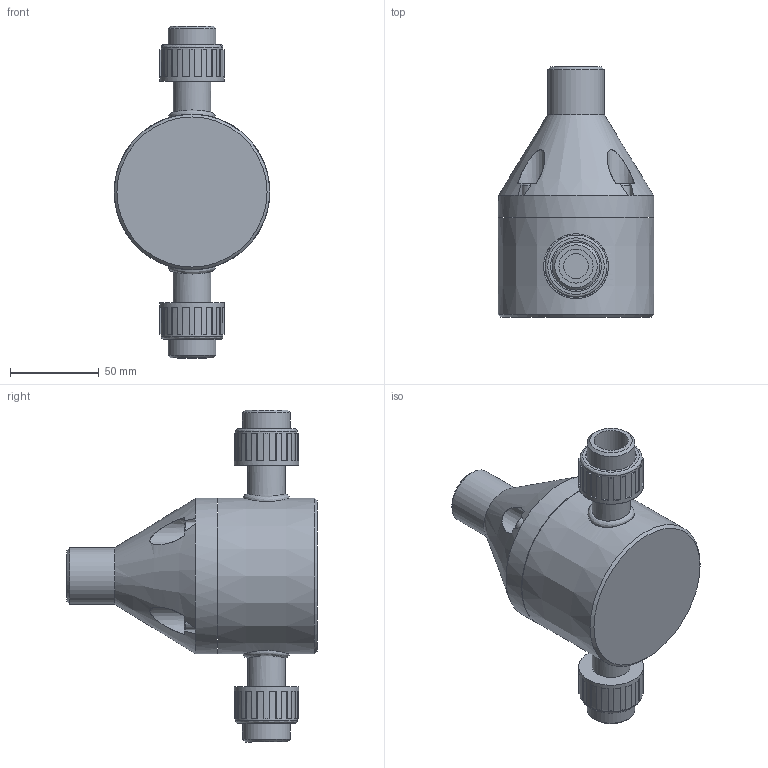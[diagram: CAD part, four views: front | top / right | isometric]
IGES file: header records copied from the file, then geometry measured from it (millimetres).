
Start section: SolidWorks IGES file using analytic representation for surfaces
Global section: file name: F:\Griffco-Valve\Griffco_current-projects\GV_web-files_2015\G Series Union\GBP0500-UNION.IGS; native system: SolidWorks 2014; preprocessor: SolidWorks 2014; author: Dan; date: 160831.024407; units: inch
Bounding box: 87.63 x 140.97 x 186.94 mm (x, y, z)
Surface area: 62275.8 mm2 (no closed solid volume)
Topology: 0 solids, 0 shells, 253 faces, 1274 edges, 1235 vertices
Faces by surface type: bspline 211, revolution 42
